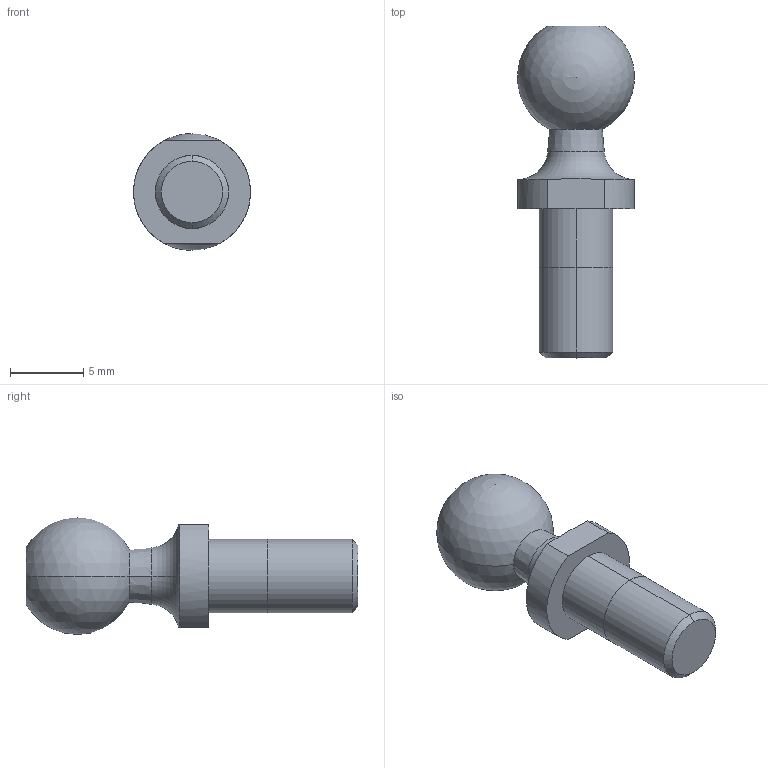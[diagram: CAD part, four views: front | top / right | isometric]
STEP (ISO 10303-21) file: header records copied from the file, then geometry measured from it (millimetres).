
FILE_DESCRIPTION (( 'STEP AP203' ), '1' );
FILE_NAME ('65550.W0005.step', '2014-02-03T10:40:33', ( 'User' ), ( '' ), 'SwSTEP 2.0', 'SolidWorks 2009', '' );
FILE_SCHEMA (( 'CONFIG_CONTROL_DESIGN' ));
Length unit declared in the file: millimetre
Products named in the file (1): 65550.W0005
Bounding box: 8 x 22.7 x 8 mm (x, y, z)
Volume: 610.3 mm3; surface area: 511.6 mm2
Topology: 1 solids, 1 shells, 20 faces, 47 edges, 29 vertices
Faces by surface type: cylinder 6, plane 6, cone 4, sphere 2, torus 2
Entity records: 643 total; most frequent: CARTESIAN_POINT 115, DIRECTION 108, ORIENTED_EDGE 84, AXIS2_PLACEMENT_3D 47, EDGE_CURVE 42, VERTEX_POINT 26, CIRCLE 26, EDGE_LOOP 22
